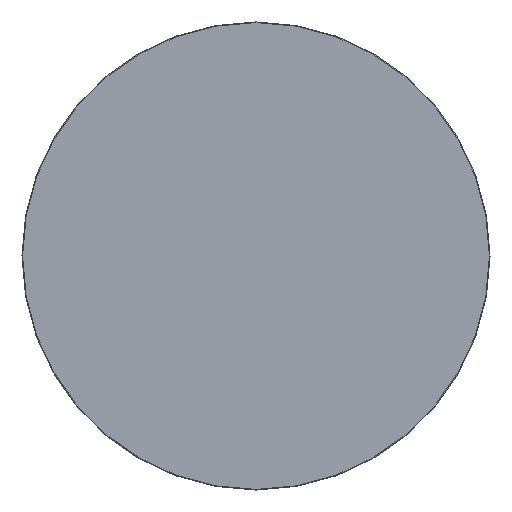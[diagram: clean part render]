
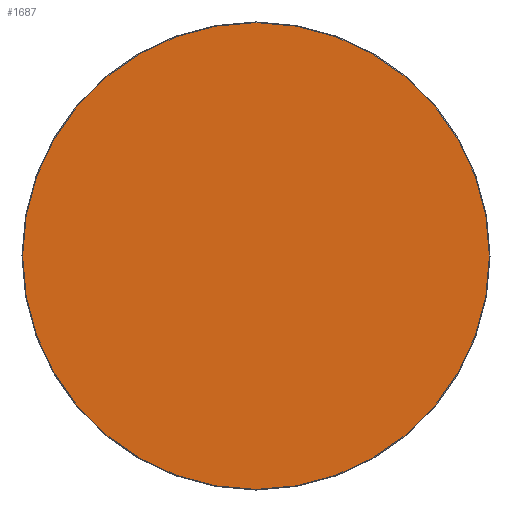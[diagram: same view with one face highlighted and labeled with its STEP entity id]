
A CAD part, left-side view. The second image highlights one B-rep face of the part: STEP entity #1687.
In plain terms, the highlighted planar face has unit normal (-1, 0, 0).
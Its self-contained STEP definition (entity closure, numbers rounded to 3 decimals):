
#45 = CARTESIAN_POINT ( 'NONE',  ( 0., 0., 114.7 ) ) ;
#224 = VERTEX_POINT ( 'NONE', #287 ) ;
#287 = CARTESIAN_POINT ( 'NONE',  ( 0., 0., -114.7 ) ) ;
#381 = DIRECTION ( 'NONE',  ( 0., 0., -1. ) ) ;
#409 = AXIS2_PLACEMENT_3D ( 'NONE', #2043, #1862, #902 ) ;
#531 = DIRECTION ( 'NONE',  ( 1., 0., 0. ) ) ;
#622 = EDGE_CURVE ( 'NONE', #1067, #224, #1730, .T. ) ;
#694 = DIRECTION ( 'NONE',  ( 0., 0., 1. ) ) ;
#838 = CARTESIAN_POINT ( 'NONE',  ( 0., 0., 0. ) ) ;
#860 = ORIENTED_EDGE ( 'NONE', *, *, #622, .T. ) ;
#902 = DIRECTION ( 'NONE',  ( 0., 0., 1. ) ) ;
#947 = ORIENTED_EDGE ( 'NONE', *, *, #1134, .T. ) ;
#980 = FACE_OUTER_BOUND ( 'NONE', #1780, .T. ) ;
#1067 = VERTEX_POINT ( 'NONE', #45 ) ;
#1134 = EDGE_CURVE ( 'NONE', #224, #1067, #1215, .T. ) ;
#1143 = CARTESIAN_POINT ( 'NONE',  ( 0., 0., 0. ) ) ;
#1215 = CIRCLE ( 'NONE', #1789, 114.7 ) ;
#1562 = AXIS2_PLACEMENT_3D ( 'NONE', #838, #531, #381 ) ;
#1687 = ADVANCED_FACE ( 'NONE', ( #980 ), #1808, .F. ) ;
#1730 = CIRCLE ( 'NONE', #409, 114.7 ) ;
#1780 = EDGE_LOOP ( 'NONE', ( #947, #860 ) ) ;
#1789 = AXIS2_PLACEMENT_3D ( 'NONE', #1143, #1985, #694 ) ;
#1808 = PLANE ( 'NONE',  #1562 ) ;
#1862 = DIRECTION ( 'NONE',  ( -1., 0., 0. ) ) ;
#1985 = DIRECTION ( 'NONE',  ( -1., 0., 0. ) ) ;
#2043 = CARTESIAN_POINT ( 'NONE',  ( 0., 0., 0. ) ) ;
